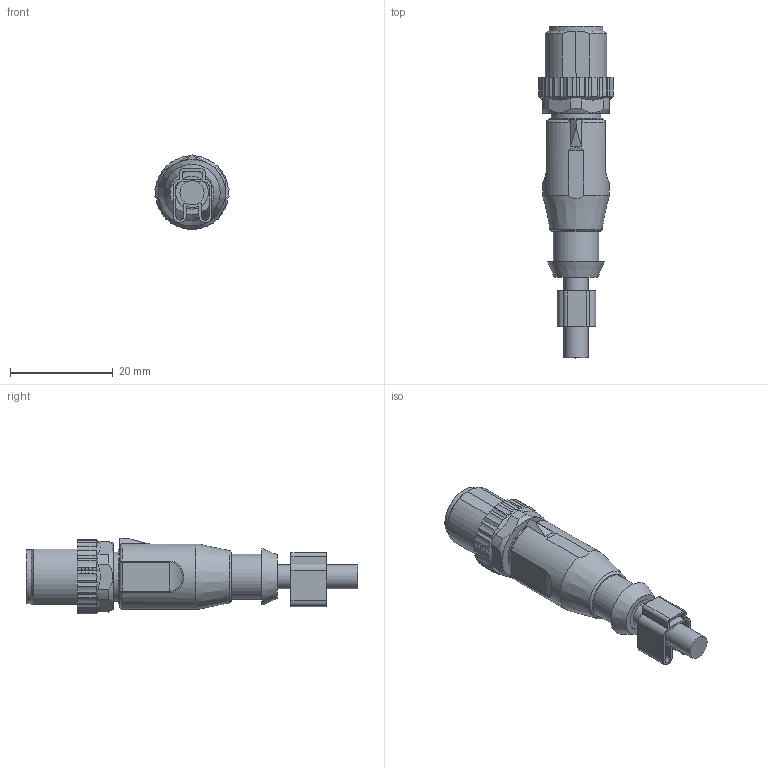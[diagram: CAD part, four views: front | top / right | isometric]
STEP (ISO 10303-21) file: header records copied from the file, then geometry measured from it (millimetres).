
FILE_DESCRIPTION((''),'2;1');
FILE_NAME('K:\Step\Beckhoff\SAL-12-RS5.1.stp','2014-09-09T12:15:55',('ulrikefromm'),(''),'Autodesk Inventor 2011','Autodesk Inventor 2011','');
FILE_SCHEMA(('AUTOMOTIVE_DESIGN { 1 0 10303 214 1 1 1 1 }'));
Length unit declared in the file: millimetre
Products named in the file (1): Bauteil1
Bounding box: 14.44 x 64.72 x 14.72 mm (x, y, z)
Volume: 5227.8 mm3; surface area: 4025 mm2
Topology: 1 solids, 7 shells, 710 faces, 1989 edges, 1315 vertices
Faces by surface type: plane 541, cylinder 84, cone 41, bspline 33, torus 6, sphere 5
Full cylindrical faces by diameter (mm): 1 x9, 1.1 x4, 3.996 x1, 4.7 x1, 6.4 x1, 8.3 x1, 8.8 x1, 9.6 x1, 9.7 x1, 10.5 x2
Entity records: 23671 total; most frequent: CARTESIAN_POINT 5364, ORIENTED_EDGE 3854, DIRECTION 3262, EDGE_CURVE 1927, VECTOR 1498, LINE 1498, VERTEX_POINT 1294, AXIS2_PLACEMENT_3D 882
